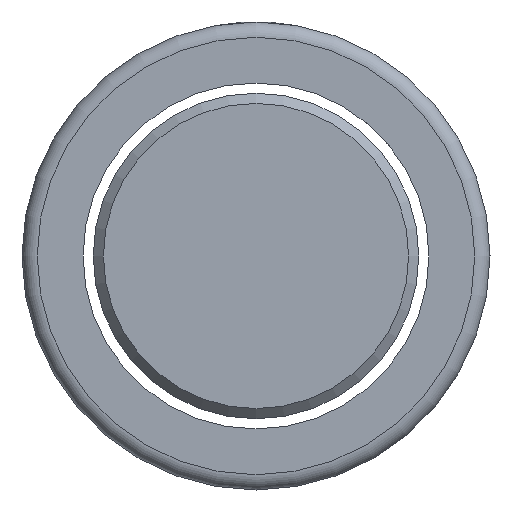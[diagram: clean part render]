
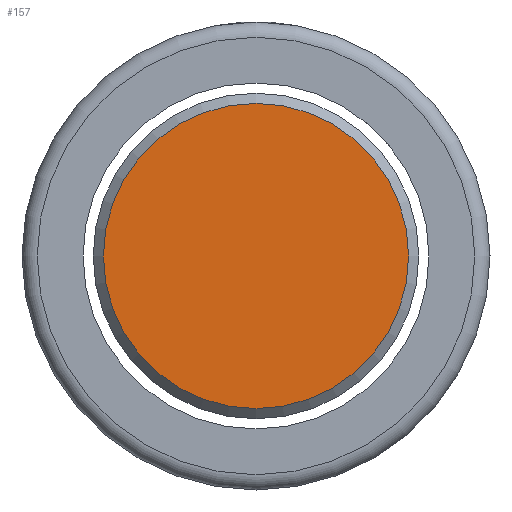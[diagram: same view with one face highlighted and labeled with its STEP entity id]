
A CAD part, left-side view. The second image highlights one B-rep face of the part: STEP entity #157.
In plain terms, the highlighted planar face has unit normal (-1, 0, 0).
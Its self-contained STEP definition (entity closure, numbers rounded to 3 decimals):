
#107=PLANE('',#367);
#116=FACE_OUTER_BOUND('',#218,.T.);
#157=ADVANCED_FACE('',(#116),#107,.T.);
#218=EDGE_LOOP('',(#270));
#270=ORIENTED_EDGE('',*,*,#322,.T.);
#296=VERTEX_POINT('',#645);
#322=EDGE_CURVE('',#296,#296,#336,.T.);
#336=CIRCLE('',#366,15.);
#366=AXIS2_PLACEMENT_3D('',#644,#435,#436);
#367=AXIS2_PLACEMENT_3D('',#646,#437,#438);
#435=DIRECTION('',(-1.,0.,0.));
#436=DIRECTION('',(0.,-1.,0.));
#437=DIRECTION('',(-1.,0.,0.));
#438=DIRECTION('',(0.,-1.,0.));
#644=CARTESIAN_POINT('',(-100.,0.,0.));
#645=CARTESIAN_POINT('',(-100.,-15.,0.));
#646=CARTESIAN_POINT('',(-100.,8.,0.));
